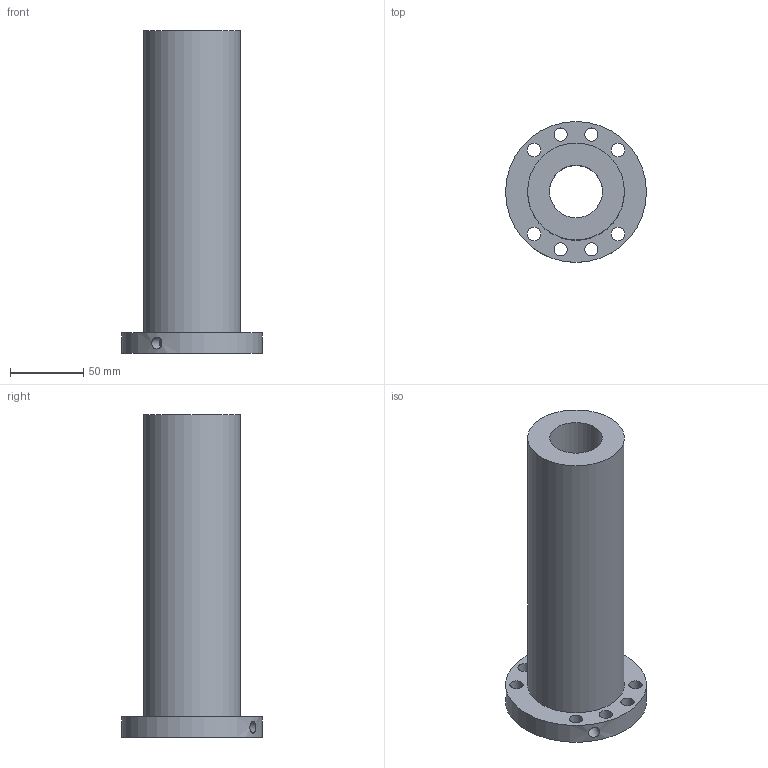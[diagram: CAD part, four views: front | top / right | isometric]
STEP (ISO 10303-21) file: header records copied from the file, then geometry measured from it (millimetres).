
FILE_DESCRIPTION(/* description */ (''),/* implementation_level */ '2;1');
FILE_NAME(/* name */ '36-20K4_635',/* time_stamp */ '2007-10-15T12:53:59+08:00',/* author */ (''),/* organization */ (''),/* preprocessor_version */ 'ST-DEVELOPER v11',/* originating_system */ 'UGS - NX 5.0',/* authorisation */ '');
FILE_SCHEMA (('CONFIG_CONTROL_DESIGN'));
Length unit declared in the file: millimetre
Products named in the file (1): 36-20K4_635
Bounding box: 96 x 96 x 220 mm (x, y, z)
Volume: 573976 mm3; surface area: 86978.3 mm2
Topology: 1 solids, 1 shells, 17 faces, 40 edges, 27 vertices
Faces by surface type: cylinder 13, plane 4
Full cylindrical faces by diameter (mm): 6 x1, 8 x1, 9 x8, 36 x1, 66 x1, 96 x1
Entity records: 668 total; most frequent: CARTESIAN_POINT 184, DIRECTION 84, FACE_BOUND 52, EDGE_LOOP 52, ORIENTED_EDGE 52, AXIS2_PLACEMENT_3D 42, VERTEX_POINT 26, EDGE_CURVE 26
